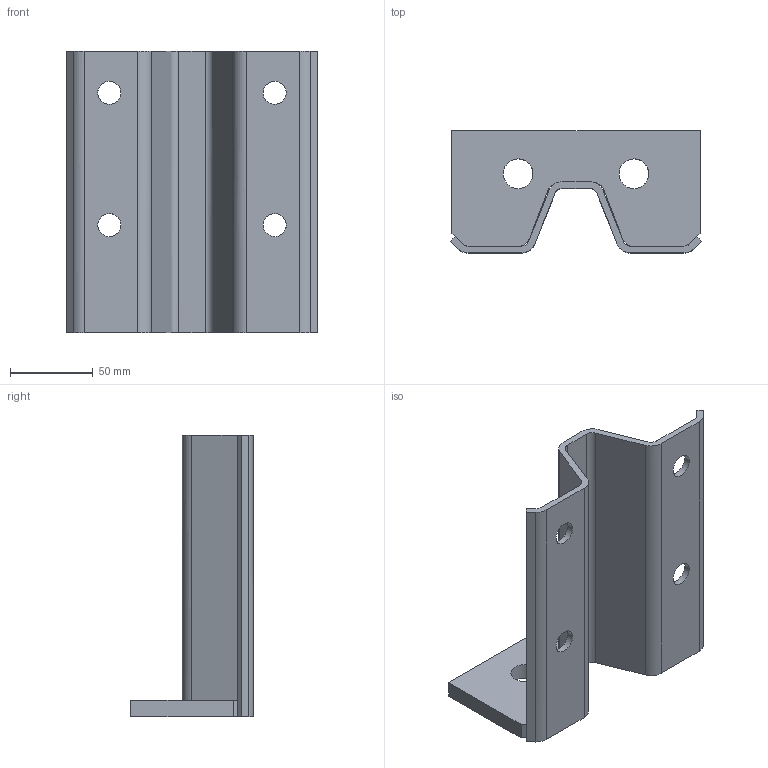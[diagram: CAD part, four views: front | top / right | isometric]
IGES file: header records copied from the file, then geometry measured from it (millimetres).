
Global section: file name: ZB200W70; native system: Autodesk RealDWG; preprocessor: Autodesk Translation Framework DWG producer (atf_dwg_producer); organization: unknown; date: 20230703.112259; units: centimetre
Bounding box: 151.72 x 74 x 170 mm (x, y, z)
Volume: 216463.3 mm3; surface area: 93319.3 mm2
Topology: 2 solids, 2 shells, 54 faces, 160 edges, 110 vertices
Faces by surface type: bspline 54
